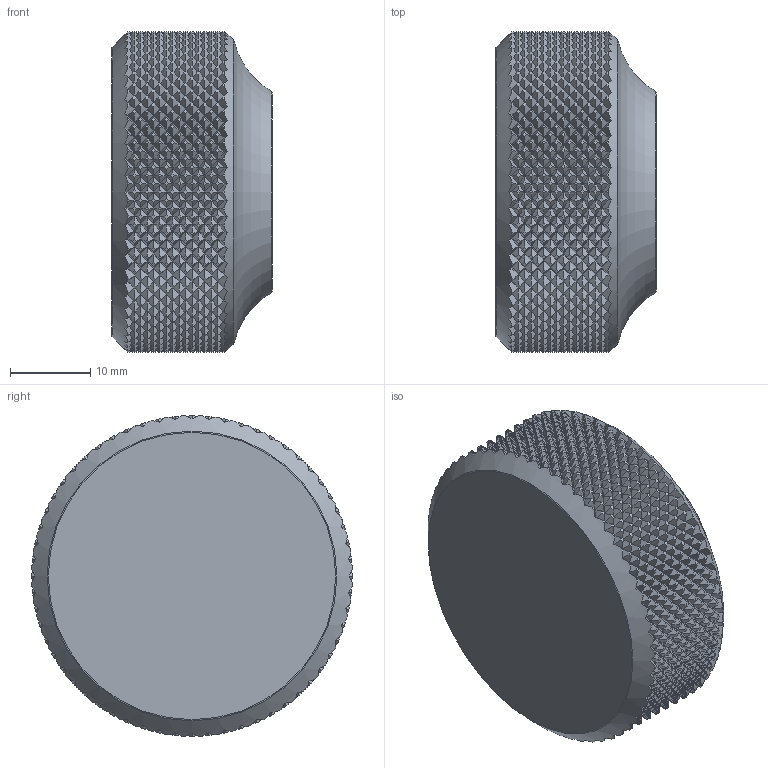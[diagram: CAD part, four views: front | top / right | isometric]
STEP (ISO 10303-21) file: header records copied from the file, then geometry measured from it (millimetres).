
FILE_DESCRIPTION(/* description */ (''),/* implementation_level */ '2;1');
FILE_NAME(/* name */ 'SFE - Knob.step',/* time_stamp */ '2022-10-31T09:50:31+01:00',/* author */ (''),/* organization */ (''),/* preprocessor_version */ 'ST-DEVELOPER v19.2',/* originating_system */ 'Autodesk Translation Framework v11.17.0.187',/* authorisation */ '');
FILE_SCHEMA (('AUTOMOTIVE_DESIGN { 1 0 10303 214 3 1 1 }'));
Products named in the file (1): SFE - Knob
Bounding box: 20 x 40 x 40 mm (x, y, z)
Volume: 20020.1 mm3; surface area: 7107.1 mm2
Topology: 1 solids, 1 shells, 4595 faces, 9451 edges, 4859 vertices
Faces by surface type: bspline 3602, cylinder 983, plane 4, cone 3, torus 3
Full cylindrical faces by diameter (mm): 8.876 x10, 10.548 x10
Entity records: 180979 total; most frequent: CARTESIAN_POINT 115977, ORIENTED_EDGE 18902, EDGE_CURVE 9451, B_SPLINE_CURVE_WITH_KNOTS 9050, VERTEX_POINT 4859, EDGE_LOOP 4596, FACE_OUTER_BOUND 4595, ADVANCED_FACE 4595
